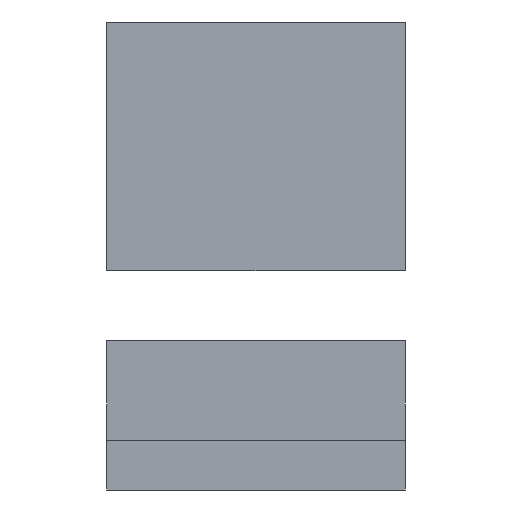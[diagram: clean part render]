
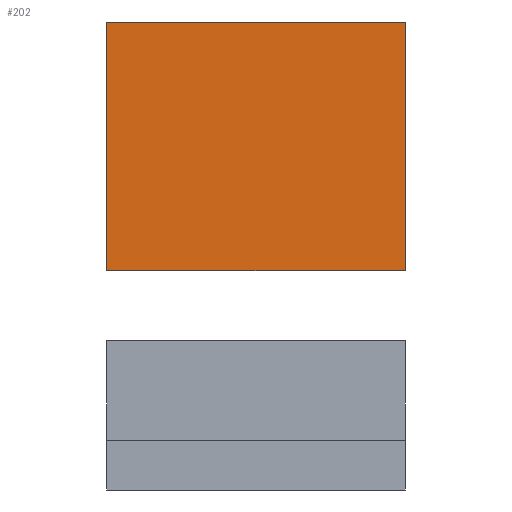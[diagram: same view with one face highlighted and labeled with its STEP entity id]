
A CAD part, left-side view. The second image highlights one B-rep face of the part: STEP entity #202.
In plain terms, the highlighted planar face has unit normal (-1, 0, 0).
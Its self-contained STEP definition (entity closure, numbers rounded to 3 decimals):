
#202=ADVANCED_FACE('',(#415),#417,.T.);
#415=FACE_BOUND('',#416,.T.);
#416=EDGE_LOOP('',(#645,#646,#647,#648));
#417=PLANE('',#418);
#418=AXIS2_PLACEMENT_3D('',#419,#420,#421);
#419=CARTESIAN_POINT('',(-144.,-60.,0.));
#420=DIRECTION('',(-1.,0.,0.));
#421=DIRECTION('',(0.,0.,1.));
#645=ORIENTED_EDGE('',*,*,#743,.T.);
#646=ORIENTED_EDGE('',*,*,#737,.T.);
#647=ORIENTED_EDGE('',*,*,#759,.F.);
#648=ORIENTED_EDGE('',*,*,#768,.F.);
#737=EDGE_CURVE('',#845,#850,#852,.T.);
#743=EDGE_CURVE('',#863,#845,#864,.T.);
#759=EDGE_CURVE('',#890,#850,#892,.T.);
#768=EDGE_CURVE('',#863,#890,#906,.T.);
#845=VERTEX_POINT('',#1066);
#850=VERTEX_POINT('',#1075);
#852=LINE('',#1079,#1080);
#863=VERTEX_POINT('',#1106);
#864=LINE('',#1107,#1108);
#890=VERTEX_POINT('',#1165);
#892=LINE('',#1169,#1170);
#906=LINE('',#1202,#1203);
#1066=CARTESIAN_POINT('',(-144.,-60.,50.));
#1075=CARTESIAN_POINT('',(-144.,0.,50.));
#1079=CARTESIAN_POINT('',(-144.,-60.,50.));
#1080=VECTOR('',#1081,1.);
#1081=DIRECTION('',(0.,1.,0.));
#1106=CARTESIAN_POINT('',(-144.,-60.,0.));
#1107=CARTESIAN_POINT('',(-144.,-60.,0.));
#1108=VECTOR('',#1109,1.);
#1109=DIRECTION('',(0.,0.,1.));
#1165=CARTESIAN_POINT('',(-144.,0.,0.));
#1169=CARTESIAN_POINT('',(-144.,0.,0.));
#1170=VECTOR('',#1171,1.);
#1171=DIRECTION('',(0.,0.,1.));
#1202=CARTESIAN_POINT('',(-144.,-60.,0.));
#1203=VECTOR('',#1204,1.);
#1204=DIRECTION('',(0.,1.,0.));
